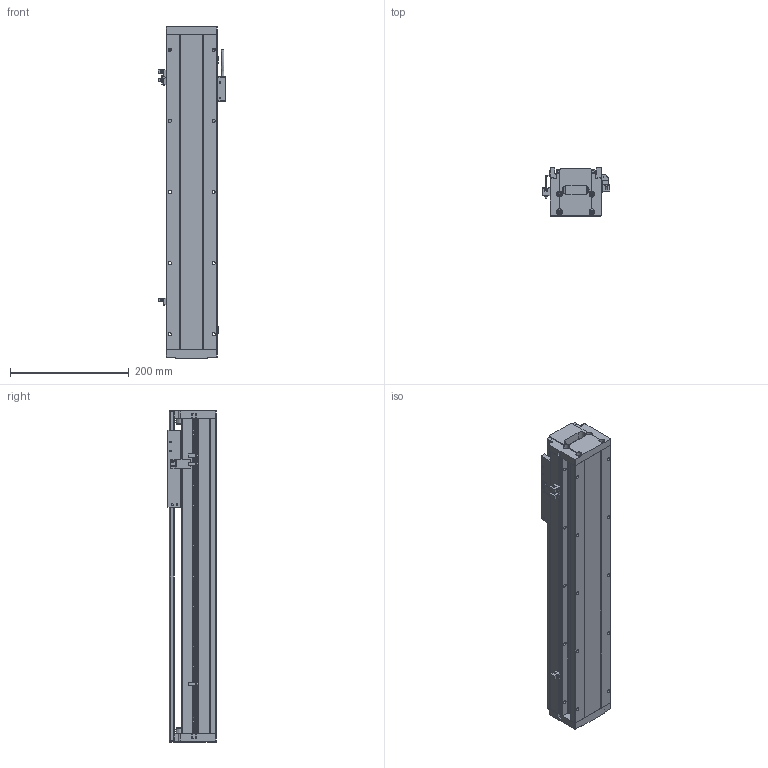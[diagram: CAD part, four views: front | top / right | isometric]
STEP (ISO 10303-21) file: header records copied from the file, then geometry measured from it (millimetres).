
FILE_DESCRIPTION (( 'STEP AP214' ), '1' );
FILE_NAME ('STC086-A-P-0362-F105-MB-010-0.3.STEP', '2023-05-11T03:07:20', ( '' ), ( '' ), 'SwSTEP 2.0', 'SolidWorks 2018', '' );
FILE_SCHEMA (( 'AUTOMOTIVE_DESIGN' ));
Length unit declared in the file: millimetre
Products named in the file (43): SF-202NA-W（光电开关）; 086-Lxxxx菁釱; 絳寢SRS12M+xxxxL-G10; 賑輸SRS12M; SE040隅赽; SKT0112-02（线缆固定件）; STK013-01（磁栅压块）; STC086-A-P-0362-F105-MB-010-0.3; 蝶菜17x14x10; STK080-F105賑怢蚾饜极; 086-Lxxxx裔啣; LMD-2-R001-V5-L0.3-C0-F00（磁栅编码器）; HC-U-02-Lxxx棠掑喜; STK0066-001（086端盖）; STK0112-01（感应片）(默认); 086-SE1-040-S賑怢; STK0086-001（086读头固定块）
Assembly tree (27 placements, depth 3):
  SF-202NA-W（光电开关）
  賑輸SRS12M
  SE040隅赽
  SKT0112-02（线缆固定件）
  STK013-01（磁栅压块）
Bounding box: 114.4 x 81 x 560 mm (x, y, z)
Volume: 1920964.3 mm3; surface area: 603155.8 mm2
Topology: 26 solids, 26 shells, 1858 faces, 5118 edges, 3263 vertices
Faces by surface type: plane 903, cylinder 771, cone 160, torus 14, bspline 6, sphere 4
Entity records: 43286 total; most frequent: CARTESIAN_POINT 8586, DIRECTION 7017, ORIENTED_EDGE 6970, EDGE_CURVE 3485, AXIS2_PLACEMENT_3D 2452, VERTEX_POINT 2281, VECTOR 2113, LINE 2113
